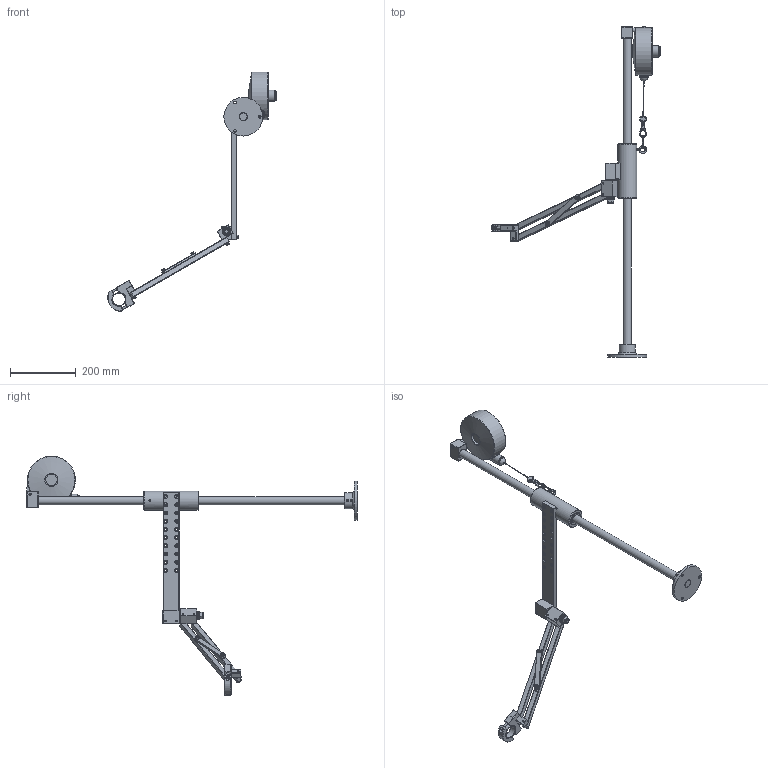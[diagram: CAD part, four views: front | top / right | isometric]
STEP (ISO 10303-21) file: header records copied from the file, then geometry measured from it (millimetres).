
FILE_DESCRIPTION( ( 'Unknown' ), '1' );
FILE_NAME( 'D:/dogabe/Industrie/Industrie 2003/03-47-2560 BA40R/4-1200071_bras BA 40 R_3D/4-1200071_bras BA 40 R.stp', 'Unknown', ( 'Unknown' ), ( 'Unknown' ), 'PSStep 14.0', 'Unknown', ' ' );
FILE_SCHEMA( ( 'AUTOMOTIVE_DESIGN { 1 0 10303 214 1 1 1 1 }' ) );
Length unit declared in the file: millimetre
Products named in the file (52): Asm Equilibreur BA40; CHC M8x50; Equilibreur 4-6 Kg; Entretoise; Entretoise-oa7; Vis HC M4x8 à téton; Support equilibreur; Bague; Asm avant bras BA40R-22.5; Pivot 1 BA40R; Carré supérieur BA40R; Carré inférieur BA40R; Règle immobilisatrice; 16 Z; CHC M6x30-oa8; CHC M6x30-oa9; CHC M6x30-oa10; CHC M6x30; CHC M6x20; CHC M6x20-oa11; H M12 Nyl; Butée à aiguilles AXK1226; Roulement à aiguilles HK1612; Roulement à aiguilles HK1612-oa12; 12 M; 12 M-oa13; Asm arrière bras BA40R; CHC M6x30-oa1; Douille KB25; Douille KB25-oa2; Piton M6; FHC M6x20; FHC M6x20-oa3; FHC M6x20-oa4; FHC M6x20-oa5; Fourreau BA40R; Plaque support BA40R; Pivot 2 BA40R; Axe 16 BA40R; Asm mat BA40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
Assembly tree (52 placements, depth 3):
  Assem1
    Cable
    Pince BA40R
      pince BA40R
      CHC M6x45 fileté sous tete
      CHC M6x45 fileté sous tete-oa0
      Collier
      Placement'
    Asm arrière bras BA40R
      CHC M6x30
      CHC M6x30-oa1
      Douille KB25
      Douille KB25-oa2
      Piton M6
      FHC M6x20
      FHC M6x20-oa3
      FHC M6x20-oa4
      FHC M6x20-oa5
      Fourreau BA40R
      Plaque support BA40R
      Pivot 2 BA40R
      Axe 16 BA40R
    Asm mat BA40
      Vis HC M8x12 à bout plat
      Vis HC M8x12 à bout plat-oa6
      Pied BA40R
      Axe mat BA40R
    Asm Equilibreur BA40
      CHC M8x50
      Equilibreur 4-6 Kg
      Entretoise
      Entretoise-oa7
      Vis HC M4x8 à téton
      Support equilibreur
      Bague
    Asm avant bras BA40R-22.5
      Pivot 1 BA40R
      Carré supérieur BA40R
      Carré inférieur BA40R
      Règle immobilisatrice
      16 Z
      CHC M6x30-oa8
      CHC M6x30-oa9
      CHC M6x30-oa10
      CHC M6x30
      CHC M6x20
      CHC M6x20-oa11
      H M12 Nyl
      Butée à aiguilles AXK1226
      Roulement à aiguilles HK1612
      Roulement à aiguilles HK1612-oa12
      12 M
      12 M-oa13
Bounding box: 513.5 x 1008.78 x 731.56 mm (x, y, z)
Volume: 2673023.4 mm3; surface area: 474793.4 mm2
Topology: 47 solids, 47 shells, 1079 faces, 2470 edges, 1534 vertices
Faces by surface type: plane 599, cylinder 340, cone 86, torus 38, sphere 9, bspline 7
Full cylindrical faces by diameter (mm): 2 x1, 2.5 x3, 3.3 x1, 4 x1, 5 x18, 5.8 x14, 6 x43, 6.5 x2, 6.8 x3, 7 x1, 7.8 x1, 8 x3, 8.5 x5, 9 x2, 10 x11, 10.2 x1, 12 x4, 13 x3, 16 x5, 17.785 x1, 22 x3, 25 x5, 26 x2, 27 x2, 28 x2, 28.5 x1, 30 x2, 35 x2, 38 x1, 40 x5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
Entity records: 39389 total; most frequent: CARTESIAN_POINT 7789, DIRECTION 4740, ORIENTED_EDGE 4050, EDGE_CURVE 2025, AXIS2_PLACEMENT_3D 1826, EDGE_LOOP 1517, VERTEX_POINT 1373, FACE_OUTER_BOUND 1227
